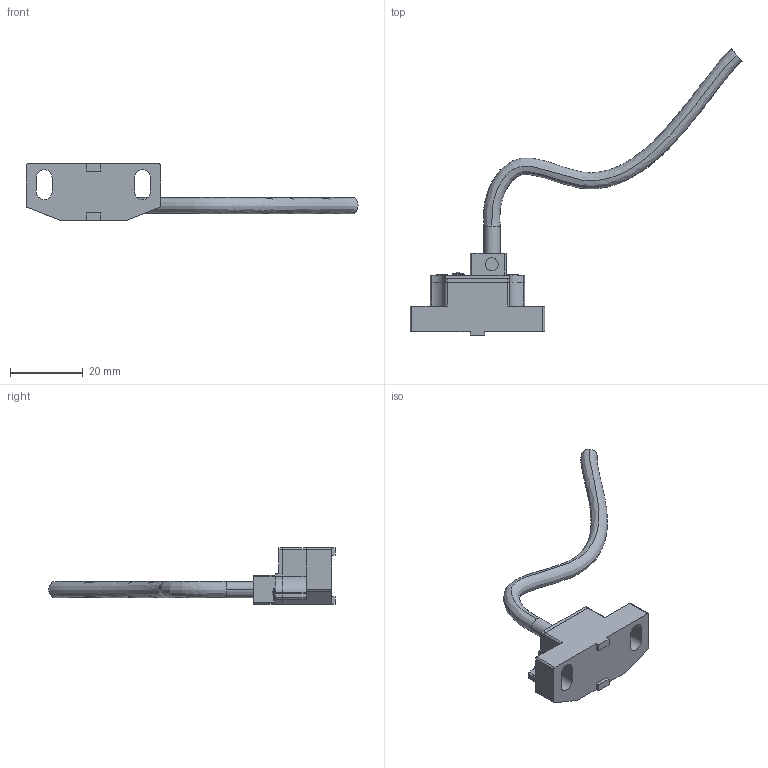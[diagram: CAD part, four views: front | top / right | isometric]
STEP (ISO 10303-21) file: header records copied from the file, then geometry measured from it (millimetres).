
FILE_DESCRIPTION (( 'STEP AP214' ), '1' );
FILE_NAME ('SP3x_aksialni.STEP', '2026-09-23T11:34:39', ( '' ), ( '' ), 'SwSTEP 2.0', 'SolidWorks 2024', '' );
FILE_SCHEMA (( 'AUTOMOTIVE_DESIGN' ));
Length unit declared in the file: millimetre
Products named in the file (1): SP3x_aksialni
Bounding box: 91.24 x 78.71 x 15.5 mm (x, y, z)
Volume: 7816.1 mm3; surface area: 4623.4 mm2
Topology: 1 solids, 8 shells, 195 faces, 500 edges, 321 vertices
Faces by surface type: cylinder 76, plane 61, cone 50, torus 4, bspline 2, sphere 2
Entity records: 6984 total; most frequent: CARTESIAN_POINT 1753, DIRECTION 1104, ORIENTED_EDGE 984, EDGE_CURVE 492, AXIS2_PLACEMENT_3D 432, VERTEX_POINT 321, VECTOR 240, LINE 240
